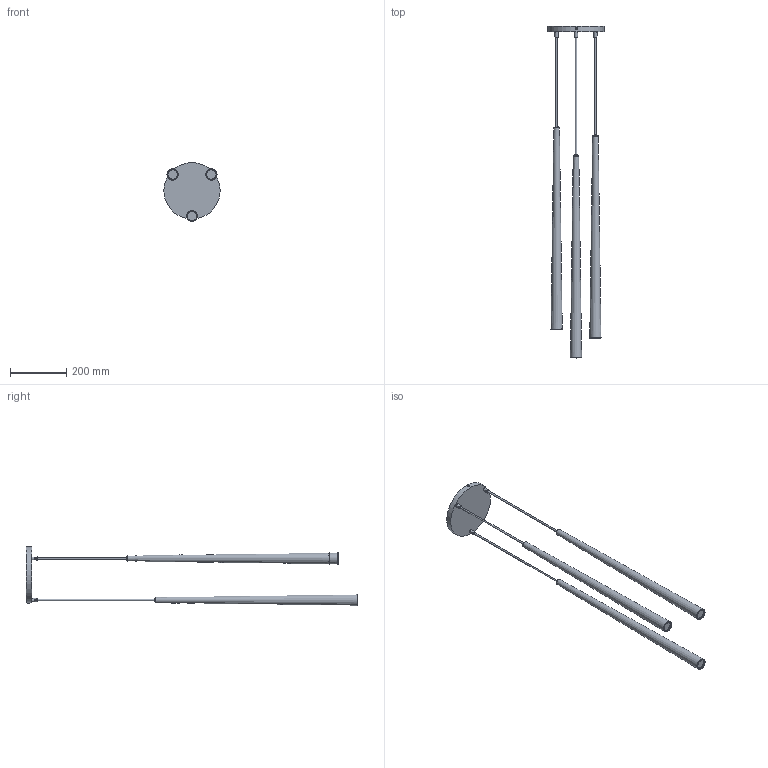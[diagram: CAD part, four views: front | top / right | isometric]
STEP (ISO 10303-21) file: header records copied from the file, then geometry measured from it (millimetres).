
FILE_DESCRIPTION(/* description */ (''),/* implementation_level */ '2;1');
FILE_NAME(/* name */ 'C:/Users/kubaw/OneDrive/Pulpit/Nowy folder (3)/6413_PIANO v3.step',/* time_stamp */ '2021-12-11T11:49:00+01:00',/* author */ (''),/* organization */ (''),/* preprocessor_version */ 'ST-DEVELOPER v18.1',/* originating_system */ 'Autodesk Translation Framework v10.10.0.1391',/* authorisation */ '');
FILE_SCHEMA (('AUTOMOTIVE_DESIGN { 1 0 10303 214 3 1 1 }'));
Length unit declared in the file: millimetre
Products named in the file (5): 6413_PIANO; PIANO_BAZA; PIANO_BAZA2; PIANO_BAZA3; ŚRUBA_P
Assembly tree (5 placements, depth 2):
  6413_PIANO
    PIANO_BAZA
    PIANO_BAZA2
    PIANO_BAZA3
    ŚRUBA_P  x2
Bounding box: 200 x 1180 x 211.14 mm (x, y, z)
Volume: 2232305.8 mm3; surface area: 312711.4 mm2
Topology: 20 solids, 20 shells, 131 faces, 243 edges, 161 vertices
Faces by surface type: plane 85, cylinder 20, torus 12, cone 9, bspline 5
Full cylindrical faces by diameter (mm): 6 x6, 7.68 x2, 37 x3, 200 x1
Entity records: 2943 total; most frequent: CARTESIAN_POINT 602, DIRECTION 502, ORIENTED_EDGE 378, AXIS2_PLACEMENT_3D 209, EDGE_CURVE 189, VERTEX_POINT 125, EDGE_LOOP 118, FACE_OUTER_BOUND 109
